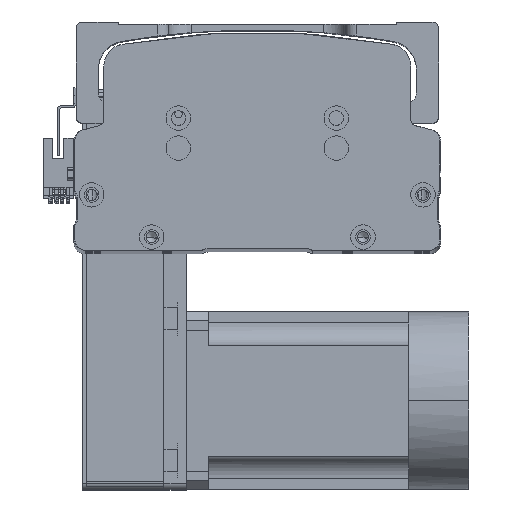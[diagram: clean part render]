
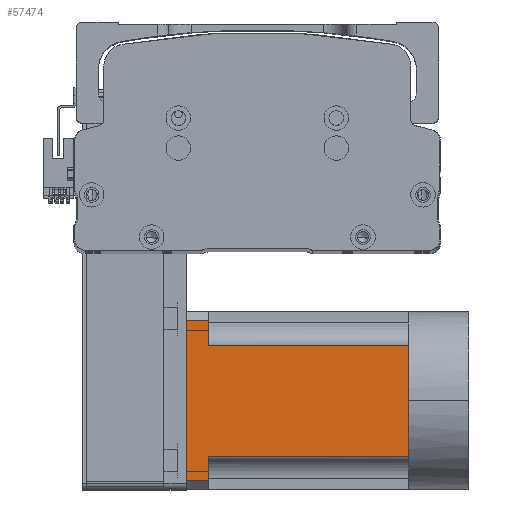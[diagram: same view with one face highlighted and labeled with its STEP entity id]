
A CAD part, top view. The second image highlights one B-rep face of the part: STEP entity #57474.
In plain terms, the highlighted planar face has unit normal (0, 0, 1) as drawn and (0, 0, -1) by its records, which use the part's own axes.
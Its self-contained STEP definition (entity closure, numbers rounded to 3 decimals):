
#2185 = DIRECTION ( 'NONE',  ( 0., 1., 0. ) ) ;
#2214 = VERTEX_POINT ( 'NONE', #45803 ) ;
#8500 = CARTESIAN_POINT ( 'NONE',  ( -40., 90., -40. ) ) ;
#9167 = CARTESIAN_POINT ( 'NONE',  ( -25., 0., -40. ) ) ;
#9575 = LINE ( 'NONE', #55601, #22589 ) ;
#10303 = LINE ( 'NONE', #44702, #36260 ) ;
#10631 = DIRECTION ( 'NONE',  ( 0., 1., 0. ) ) ;
#12219 = EDGE_CURVE ( 'NONE', #52530, #34578, #47647, .T. ) ;
#12533 = DIRECTION ( 'NONE',  ( -1., 0., 0. ) ) ;
#12730 = CARTESIAN_POINT ( 'NONE',  ( -40., 0., -40. ) ) ;
#13251 = VECTOR ( 'NONE', #2185, 1000. ) ;
#14365 = CARTESIAN_POINT ( 'NONE',  ( 36., 100., -40. ) ) ;
#14479 = ORIENTED_EDGE ( 'NONE', *, *, #38898, .T. ) ;
#14732 = DIRECTION ( 'NONE',  ( 0., 0., -1. ) ) ;
#15415 = EDGE_CURVE ( 'NONE', #26868, #47370, #59473, .T. ) ;
#16606 = EDGE_CURVE ( 'NONE', #49310, #40766, #30404, .T. ) ;
#18535 = ORIENTED_EDGE ( 'NONE', *, *, #59829, .F. ) ;
#18685 = VECTOR ( 'NONE', #23661, 1000. ) ;
#19850 = CARTESIAN_POINT ( 'NONE',  ( -40., 0., -40. ) ) ;
#20623 = VECTOR ( 'NONE', #12533, 1000. ) ;
#21533 = CARTESIAN_POINT ( 'NONE',  ( 25., 90., -40. ) ) ;
#22589 = VECTOR ( 'NONE', #41092, 1000. ) ;
#23261 = CARTESIAN_POINT ( 'NONE',  ( -25., 90., -40. ) ) ;
#23661 = DIRECTION ( 'NONE',  ( 0., -1., 0. ) ) ;
#24349 = CARTESIAN_POINT ( 'NONE',  ( -40., -27., -40. ) ) ;
#24925 = EDGE_LOOP ( 'NONE', ( #18535, #51311, #37490, #60288, #25243, #26649, #14479, #61798, #28803 ) ) ;
#25169 = CARTESIAN_POINT ( 'NONE',  ( -36., 90., -40. ) ) ;
#25243 = ORIENTED_EDGE ( 'NONE', *, *, #47497, .T. ) ;
#26277 = LINE ( 'NONE', #31387, #13251 ) ;
#26649 = ORIENTED_EDGE ( 'NONE', *, *, #15415, .T. ) ;
#26868 = VERTEX_POINT ( 'NONE', #50466 ) ;
#28012 = VERTEX_POINT ( 'NONE', #50299 ) ;
#28803 = ORIENTED_EDGE ( 'NONE', *, *, #54277, .T. ) ;
#29415 = AXIS2_PLACEMENT_3D ( 'NONE', #24349, #14732, #48808 ) ;
#30404 = LINE ( 'NONE', #8500, #53193 ) ;
#31314 = LINE ( 'NONE', #50212, #44219 ) ;
#31387 = CARTESIAN_POINT ( 'NONE',  ( -36., -27., -40. ) ) ;
#33542 = VECTOR ( 'NONE', #60577, 1000. ) ;
#34578 = VERTEX_POINT ( 'NONE', #36284 ) ;
#35083 = LINE ( 'NONE', #55627, #33542 ) ;
#36260 = VECTOR ( 'NONE', #10631, 1000. ) ;
#36284 = CARTESIAN_POINT ( 'NONE',  ( 25., 0., -40. ) ) ;
#36333 = FACE_OUTER_BOUND ( 'NONE', #24925, .T. ) ;
#37490 = ORIENTED_EDGE ( 'NONE', *, *, #44303, .T. ) ;
#38399 = EDGE_CURVE ( 'NONE', #43531, #28012, #35083, .T. ) ;
#38898 = EDGE_CURVE ( 'NONE', #47370, #49310, #10303, .T. ) ;
#39437 = DIRECTION ( 'NONE',  ( -1., 0., 0. ) ) ;
#40766 = VERTEX_POINT ( 'NONE', #25169 ) ;
#41092 = DIRECTION ( 'NONE',  ( -1., 0., 0. ) ) ;
#42971 = CARTESIAN_POINT ( 'NONE',  ( 25., -27., -40. ) ) ;
#43531 = VERTEX_POINT ( 'NONE', #14365 ) ;
#44219 = VECTOR ( 'NONE', #55124, 1000. ) ;
#44303 = EDGE_CURVE ( 'NONE', #28012, #52530, #9575, .T. ) ;
#44702 = CARTESIAN_POINT ( 'NONE',  ( -25., -27., -40. ) ) ;
#45803 = CARTESIAN_POINT ( 'NONE',  ( -36., 100., -40. ) ) ;
#47370 = VERTEX_POINT ( 'NONE', #9167 ) ;
#47497 = EDGE_CURVE ( 'NONE', #34578, #26868, #57387, .T. ) ;
#47498 = DIRECTION ( 'NONE',  ( -1., 0., 0. ) ) ;
#47647 = LINE ( 'NONE', #42971, #18685 ) ;
#48808 = DIRECTION ( 'NONE',  ( -1., 0., 0. ) ) ;
#49310 = VERTEX_POINT ( 'NONE', #23261 ) ;
#50212 = CARTESIAN_POINT ( 'NONE',  ( -40., 100., -40. ) ) ;
#50299 = CARTESIAN_POINT ( 'NONE',  ( 36., 90., -40. ) ) ;
#50466 = CARTESIAN_POINT ( 'NONE',  ( 0., 0., -40. ) ) ;
#51311 = ORIENTED_EDGE ( 'NONE', *, *, #38399, .T. ) ;
#52530 = VERTEX_POINT ( 'NONE', #21533 ) ;
#53193 = VECTOR ( 'NONE', #47498, 1000. ) ;
#54277 = EDGE_CURVE ( 'NONE', #40766, #2214, #26277, .T. ) ;
#55124 = DIRECTION ( 'NONE',  ( -1., 0., 0. ) ) ;
#55601 = CARTESIAN_POINT ( 'NONE',  ( -40., 90., -40. ) ) ;
#55627 = CARTESIAN_POINT ( 'NONE',  ( 36., -27., -40. ) ) ;
#55876 = VECTOR ( 'NONE', #39437, 1000. ) ;
#57387 = LINE ( 'NONE', #19850, #55876 ) ;
#57474 = ADVANCED_FACE ( 'NONE', ( #36333 ), #58169, .T. ) ;
#58169 = PLANE ( 'NONE',  #29415 ) ;
#59473 = LINE ( 'NONE', #12730, #20623 ) ;
#59829 = EDGE_CURVE ( 'NONE', #43531, #2214, #31314, .T. ) ;
#60288 = ORIENTED_EDGE ( 'NONE', *, *, #12219, .T. ) ;
#60577 = DIRECTION ( 'NONE',  ( 0., -1., 0. ) ) ;
#61798 = ORIENTED_EDGE ( 'NONE', *, *, #16606, .T. ) ;
